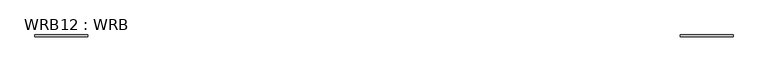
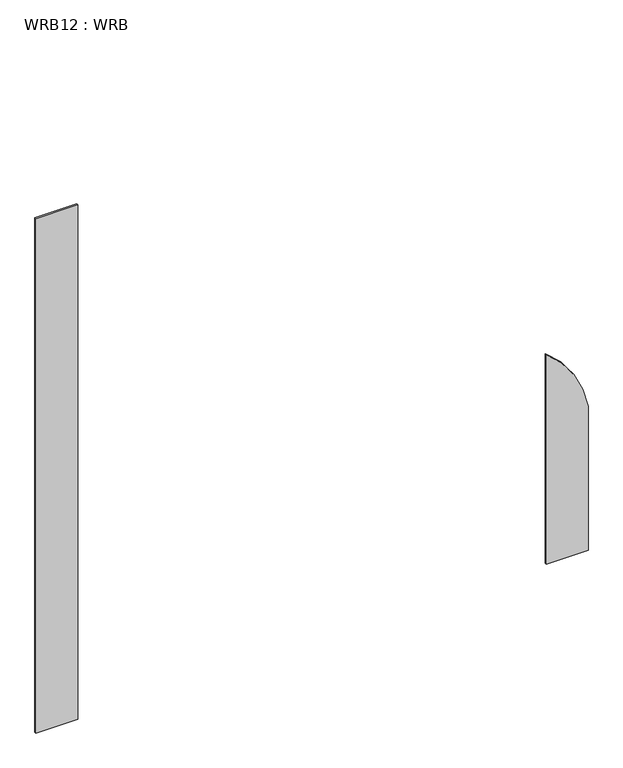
"""IFC4 building model written with IfcOpenShell, lengths in millimetres: proxy geometry, WRB12 : WRB."""

from ifc_helpers import new_model, si_unit, point, frame, frame_2d, origin, place, context, project, spatial, polyline, circle_curve, trimmed, segment, composite_curve, outline, extrude, source, transform, mapped, element, save


def wrb12_wrb_24edb861(model_context):
    return source(origin(), model_context, "Body", "SweptSolid", [
        extrude(outline(polyline([(5856.897143, 3086.3890644), (5761.647143, 3086.3890644), (5761.647143, 3089.5640644), (5856.897143, 3089.5640644), (5856.897143, 3086.3890644)])), frame((0.0, 0.0, -19.05), z_axis=(0.0, 0.0, 1.0), x_axis=(1.0, 0.0, 0.0)), (0.0, 0.0, 1.0), 1238.25),
        extrude(outline(composite_curve([segment(trimmed(circle_curve(frame_2d((286.9857554, 6773.6368291)), 248.5485369), [point((326.9760682, 7018.947143))], [point((485.1227722, 6923.697143))], False, "CARTESIAN"), True, "CONTINUOUS"), segment(polyline([(485.1227722, 6923.697143), (-19.05, 6923.697143), (-19.05, 7018.947143), (326.9760682, 7018.947143)]), True, "CONTINUOUS")], self_intersect=False)), frame((0.0, 3086.3890644, 0.0), z_axis=(0.0, 1.0, 0.0), x_axis=(0.0, 0.0, 1.0)), (0.0, 0.0, 1.0), 3.175),
    ])


if __name__ == "__main__":
    model = new_model("IFC4")
    model_context = context("Model", 3, world=origin())
    ifc_project = project(units=[si_unit("LENGTHUNIT", "METRE", prefix="MILLI")], contexts=[model_context])
    site = spatial("IfcSite", under=ifc_project)
    building = spatial("IfcBuilding", under=site)
    placement = place(None, origin())
    wrb12_wrb_shape = wrb12_wrb_24edb861(model_context)
    element("IfcBuildingElementProxy", 1, Name="WRB12 : WRB", ObjectType="WRB12 : WRB", at=placement, inside=building, context=model_context, shape_type="MappedRepresentation", body=[
        mapped(wrb12_wrb_shape, transform((0.0, 0.0, 0.0), x_axis=(1.0, 0.0, 0.0), y_axis=(0.0, 1.0, 0.0), z_axis=(0.0, 0.0, 1.0))),
    ])
    save(model, "model.ifc")
